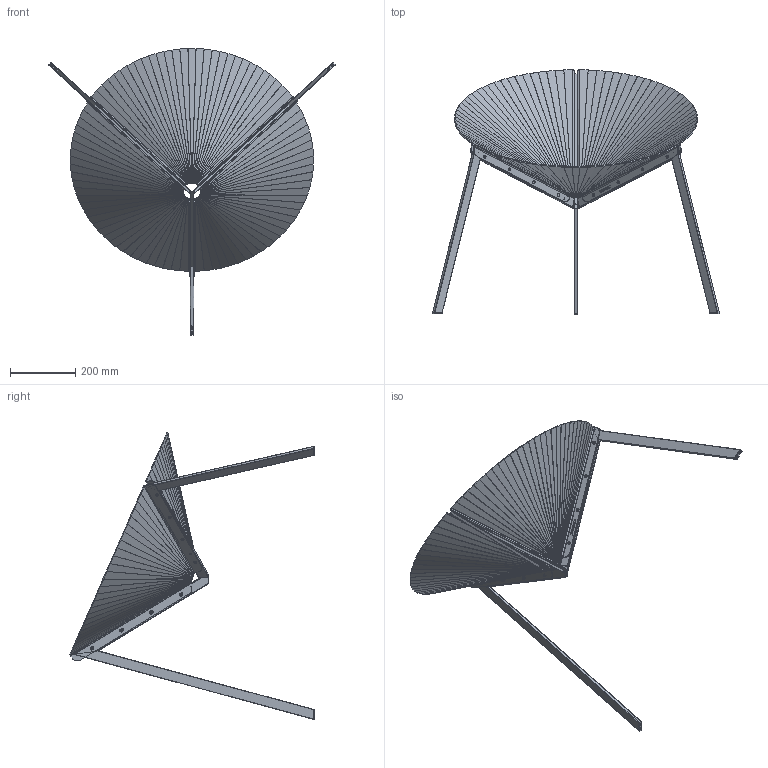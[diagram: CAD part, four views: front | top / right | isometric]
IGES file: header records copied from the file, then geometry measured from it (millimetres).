
Start section: SolidWorks IGES file using analytic representation for surfaces
Global section: file name: \\utenti\Dati Utenti\Tecnico\DC\2D - 3D per sito\3D\DeCastelli-3D-Pensando ad Acapulco.igs; native system: SolidWorks 2022; preprocessor: SolidWorks 2022; author: Simonep; date: 240729.120609; units: millimetre
Bounding box: 881.18 x 750.82 x 881.53 mm (x, y, z)
Surface area: 1503823.2 mm2 (no closed solid volume)
Topology: 0 solids, 0 shells, 731 faces, 9082 edges, 9082 vertices
Faces by surface type: bspline 435, revolution 296
